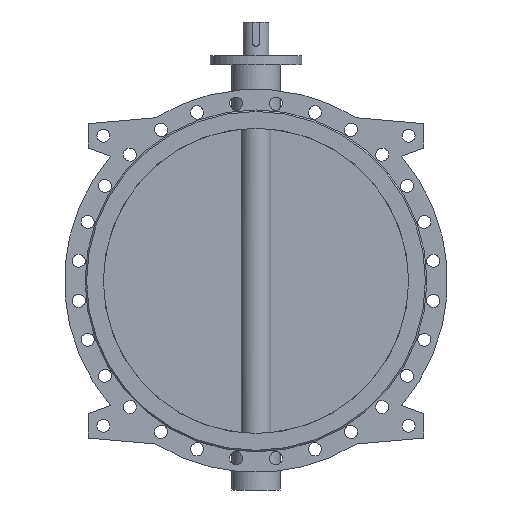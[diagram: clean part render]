
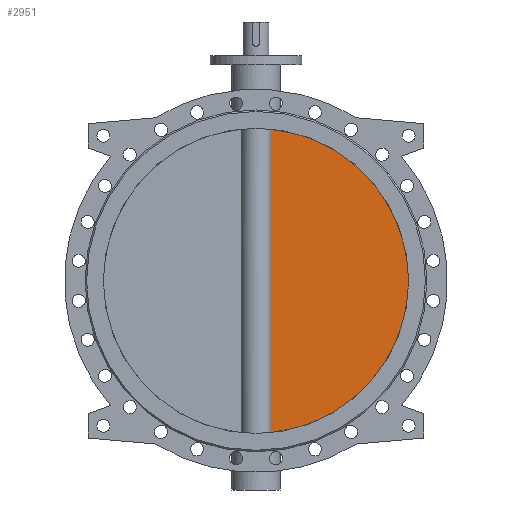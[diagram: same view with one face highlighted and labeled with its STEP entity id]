
A CAD part, front view. The second image highlights one B-rep face of the part: STEP entity #2951.
In plain terms, the highlighted planar face has unit normal (0, -1, 0).
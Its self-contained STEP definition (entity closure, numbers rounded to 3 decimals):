
#2951=ADVANCED_FACE('',(#5615),#5617,.T.);
#5615=FACE_BOUND('',#5616,.T.);
#5616=EDGE_LOOP('',(#7491,#7492));
#5617=PLANE('',#5618);
#5618=AXIS2_PLACEMENT_3D('',#5619,#5620,#5621);
#5619=CARTESIAN_POINT('',(0.,-10.,0.));
#5620=DIRECTION('',(0.,-1.,0.));
#5621=DIRECTION('',(1.,0.,0.));
#7491=ORIENTED_EDGE('',*,*,#8421,.T.);
#7492=ORIENTED_EDGE('',*,*,#8431,.T.);
#8421=EDGE_CURVE('',#9971,#9972,#9973,.F.);
#8431=EDGE_CURVE('',#9972,#9971,#9991,.T.);
#9971=VERTEX_POINT('',#14290);
#9972=VERTEX_POINT('',#14291);
#9973=CIRCLE('',#14292,500.);
#9991=LINE('',#14643,#14644);
#14290=CARTESIAN_POINT('',(48.99,-10.,-497.594));
#14291=CARTESIAN_POINT('',(48.99,-10.,497.594));
#14292=AXIS2_PLACEMENT_3D('',#14293,#14294,#14295);
#14293=CARTESIAN_POINT('',(0.,-10.,0.));
#14294=DIRECTION('',(0.,1.,0.));
#14295=DIRECTION('',(0.098,0.,0.995));
#14643=CARTESIAN_POINT('',(48.99,-10.,497.594));
#14644=VECTOR('',#14645,1.);
#14645=DIRECTION('',(0.,0.,-1.));
